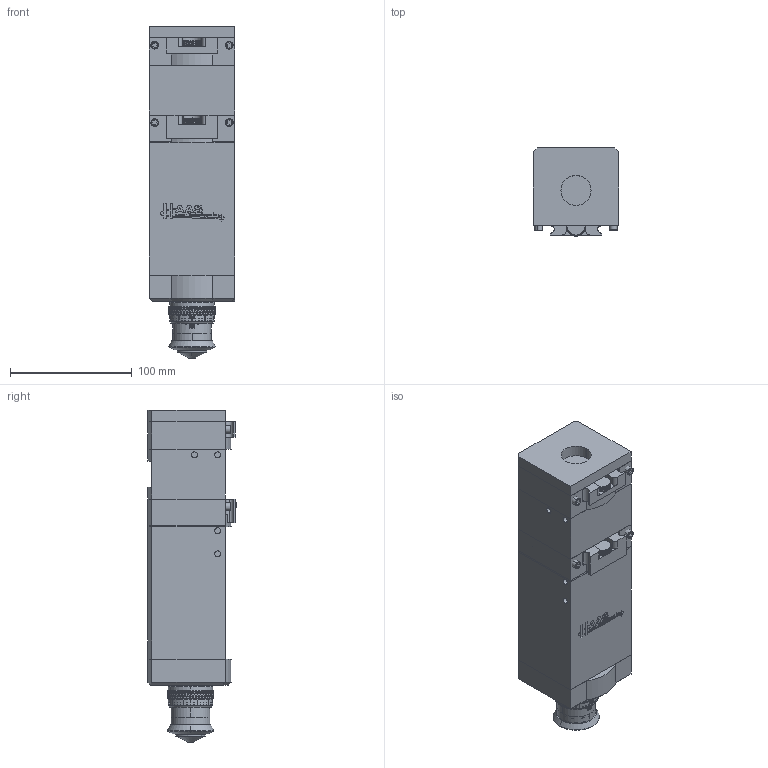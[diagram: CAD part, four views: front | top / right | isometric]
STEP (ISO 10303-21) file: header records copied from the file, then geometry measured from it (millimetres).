
FILE_DESCRIPTION (( 'STEP AP214' ), '1' );
FILE_NAME ('G6-25-28-191-254.STEP', '2016-11-03T17:57:14', ( '' ), ( '' ), 'SwSTEP 2.0', 'SolidWorks 2016', '' );
FILE_SCHEMA (( 'AUTOMOTIVE_DESIGN' ));
Length unit declared in the file: inch
Products named in the file (1): G6-25-28-191-254
Bounding box: 69.85 x 72.26 x 272.25 mm (x, y, z)
Volume: 1044666.6 mm3; surface area: 168189.1 mm2
Topology: 29 solids, 29 shells, 5082 faces, 13689 edges, 8763 vertices
Faces by surface type: plane 3826, cylinder 1083, cone 103, bspline 50, sphere 12, torus 8
Entity records: 161011 total; most frequent: CARTESIAN_POINT 44181, ORIENTED_EDGE 27370, DIRECTION 20580, EDGE_CURVE 13685, VERTEX_POINT 8763, VECTOR 7748, LINE 7748, AXIS2_PLACEMENT_3D 6416
